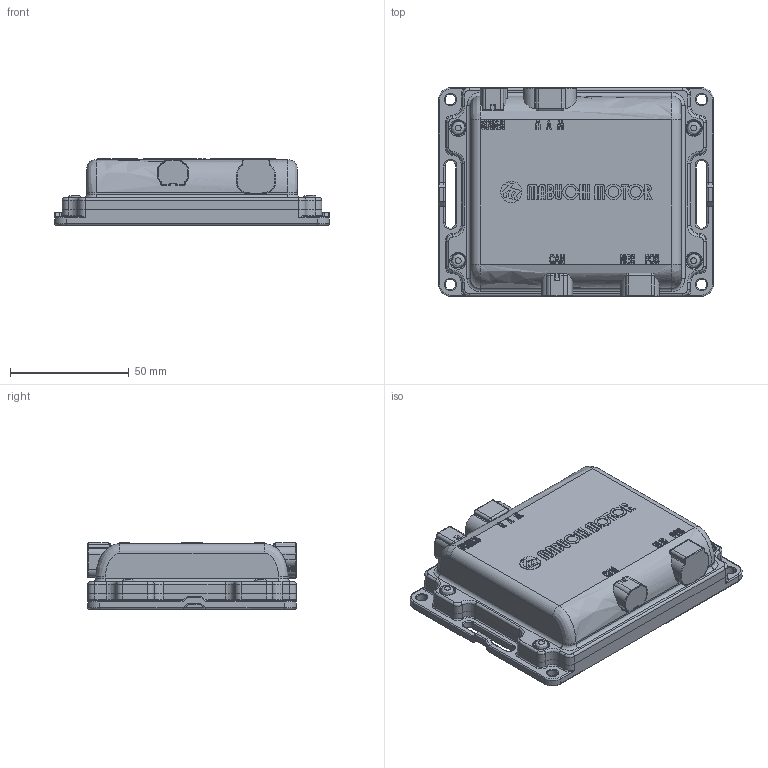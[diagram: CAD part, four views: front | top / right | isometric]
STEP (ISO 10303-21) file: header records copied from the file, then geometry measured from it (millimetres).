
FILE_DESCRIPTION(/* description */ (''),/* implementation_level */ '2;1');
FILE_NAME(/* name */ 'DS34EC1OutsideDrawing01.stp',/* time_stamp */ '2021-07-20T10:05:03+09:00',/* author */ (''),/* organization */ (''),/* preprocessor_version */ 'ST-DEVELOPER v16.7',/* originating_system */ 'SIEMENS PLM Software NX 12.0',/* authorisation */ '');
FILE_SCHEMA (('AUTOMOTIVE_DESIGN { 1 0 10303 214 3 1 1 1 }'));
Length unit declared in the file: millimetre
Products named in the file (1): DS34EC1OutsideDrawing01
Bounding box: 116 x 88 x 27.9 mm (x, y, z)
Volume: 219879.1 mm3; surface area: 48512.2 mm2
Topology: 6 solids, 15 shells, 905 faces, 2221 edges, 1383 vertices
Faces by surface type: plane 394, cylinder 284, torus 109, bspline 106, sphere 8, cone 4
Full cylindrical faces by diameter (mm): 2.71 x4, 3 x4, 4.5 x4
Entity records: 31468 total; most frequent: CARTESIAN_POINT 10885, ORIENTED_EDGE 4356, DIRECTION 4011, EDGE_CURVE 2178, VERTEX_POINT 1379, AXIS2_PLACEMENT_3D 1377, LINE 1257, VECTOR 1257
